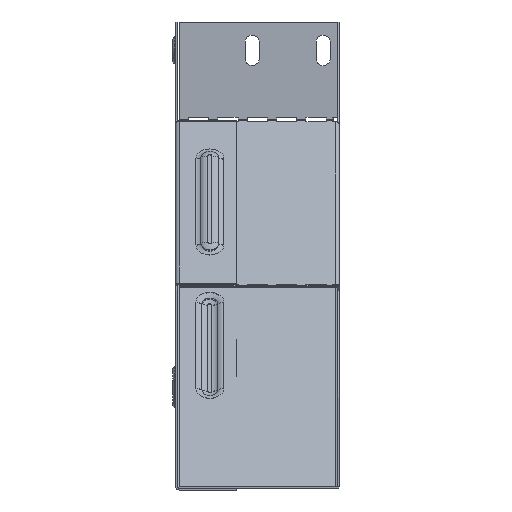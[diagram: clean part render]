
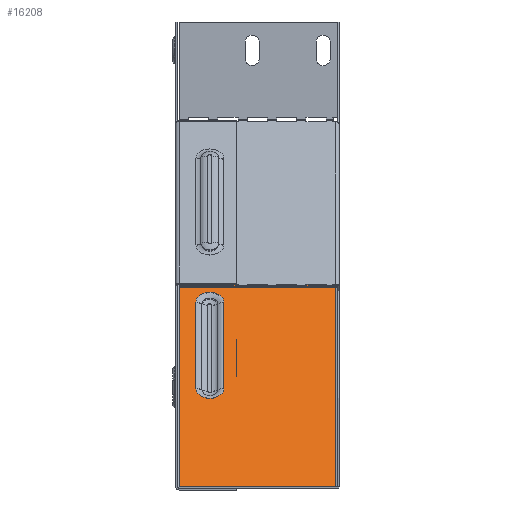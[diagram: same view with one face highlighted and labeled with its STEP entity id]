
A CAD part, left-side view. The second image highlights one B-rep face of the part: STEP entity #16208.
In plain terms, the highlighted planar face has unit normal (-0.707, 0, 0.707).
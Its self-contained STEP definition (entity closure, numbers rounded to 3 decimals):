
#53 = VECTOR ( 'NONE', #7626, 1000. ) ;
#862 = LINE ( 'NONE', #9569, #17433 ) ;
#1091 = FACE_BOUND ( 'NONE', #13655, .T. ) ;
#1096 = EDGE_CURVE ( 'NONE', #1841, #18175, #12579, .T. ) ;
#1231 = CARTESIAN_POINT ( 'NONE',  ( 23.221, 63.1, -65.648 ) ) ;
#1602 = AXIS2_PLACEMENT_3D ( 'NONE', #2169, #7394, #7015 ) ;
#1755 = FACE_OUTER_BOUND ( 'NONE', #14389, .T. ) ;
#1841 = VERTEX_POINT ( 'NONE', #14516 ) ;
#2086 = LINE ( 'NONE', #16675, #16411 ) ;
#2169 = CARTESIAN_POINT ( 'NONE',  ( 65.648, 63.1, -23.221 ) ) ;
#2198 = EDGE_CURVE ( 'NONE', #6113, #4396, #862, .T. ) ;
#2243 = CARTESIAN_POINT ( 'NONE',  ( 23.221, 56.183, -65.648 ) ) ;
#2373 = CARTESIAN_POINT ( 'NONE',  ( 114.123, 0., 25.255 ) ) ;
#2712 = ORIENTED_EDGE ( 'NONE', *, *, #15479, .F. ) ;
#2960 = CARTESIAN_POINT ( 'NONE',  ( 44.434, 56.183, -44.434 ) ) ;
#3120 = VECTOR ( 'NONE', #18192, 1000. ) ;
#3166 = ORIENTED_EDGE ( 'NONE', *, *, #9287, .F. ) ;
#3189 = DIRECTION ( 'NONE',  ( 0.707, 0., 0.707 ) ) ;
#3214 = VECTOR ( 'NONE', #3966, 1000. ) ;
#3860 = ORIENTED_EDGE ( 'NONE', *, *, #8085, .T. ) ;
#3966 = DIRECTION ( 'NONE',  ( 0., 1., 0. ) ) ;
#4124 = AXIS2_PLACEMENT_3D ( 'NONE', #1231, #15413, #4303 ) ;
#4257 = DIRECTION ( 'NONE',  ( 0.707, 0., 0.707 ) ) ;
#4303 = DIRECTION ( 'NONE',  ( 0., 1., 0. ) ) ;
#4396 = VERTEX_POINT ( 'NONE', #5369 ) ;
#4577 = EDGE_CURVE ( 'NONE', #7538, #5729, #10836, .T. ) ;
#5369 = CARTESIAN_POINT ( 'NONE',  ( 114.123, 78.2, 25.255 ) ) ;
#5729 = VERTEX_POINT ( 'NONE', #18086 ) ;
#5850 = CARTESIAN_POINT ( 'NONE',  ( 114.434, 1., 25.566 ) ) ;
#6113 = VERTEX_POINT ( 'NONE', #18067 ) ;
#6471 = CARTESIAN_POINT ( 'NONE',  ( 114.123, 1., 25.255 ) ) ;
#6904 = DIRECTION ( 'NONE',  ( 0.707, 0., 0.707 ) ) ;
#7015 = DIRECTION ( 'NONE',  ( 0., 1., 0. ) ) ;
#7135 = LINE ( 'NONE', #2960, #11754 ) ;
#7394 = DIRECTION ( 'NONE',  ( -0.707, 0., 0.707 ) ) ;
#7461 = PLANE ( 'NONE',  #14780 ) ;
#7538 = VERTEX_POINT ( 'NONE', #6471 ) ;
#7626 = DIRECTION ( 'NONE',  ( -0.707, 0., -0.707 ) ) ;
#8085 = EDGE_CURVE ( 'NONE', #7538, #4396, #10042, .T. ) ;
#8812 = ORIENTED_EDGE ( 'NONE', *, *, #13217, .F. ) ;
#9287 = EDGE_CURVE ( 'NONE', #18175, #13397, #2086, .T. ) ;
#9569 = CARTESIAN_POINT ( 'NONE',  ( 114.434, 78.2, 25.566 ) ) ;
#10000 = EDGE_CURVE ( 'NONE', #15361, #1841, #7135, .T. ) ;
#10013 = ORIENTED_EDGE ( 'NONE', *, *, #2198, .F. ) ;
#10042 = LINE ( 'NONE', #2373, #3214 ) ;
#10836 = LINE ( 'NONE', #5850, #53 ) ;
#11634 = CARTESIAN_POINT ( 'NONE',  ( 23.221, 70.017, -65.648 ) ) ;
#11754 = VECTOR ( 'NONE', #4257, 1000. ) ;
#11931 = ORIENTED_EDGE ( 'NONE', *, *, #1096, .F. ) ;
#12579 = CIRCLE ( 'NONE', #1602, 6.917 ) ;
#13030 = CARTESIAN_POINT ( 'NONE',  ( 65.648, 70.017, -23.221 ) ) ;
#13217 = EDGE_CURVE ( 'NONE', #13397, #15361, #14819, .T. ) ;
#13397 = VERTEX_POINT ( 'NONE', #11634 ) ;
#13655 = EDGE_LOOP ( 'NONE', ( #8812, #3166, #11931, #14031 ) ) ;
#14031 = ORIENTED_EDGE ( 'NONE', *, *, #10000, .F. ) ;
#14389 = EDGE_LOOP ( 'NONE', ( #16371, #3860, #10013, #2712 ) ) ;
#14516 = CARTESIAN_POINT ( 'NONE',  ( 65.648, 56.183, -23.221 ) ) ;
#14780 = AXIS2_PLACEMENT_3D ( 'NONE', #17300, #17251, #3189 ) ;
#14819 = CIRCLE ( 'NONE', #4124, 6.917 ) ;
#15361 = VERTEX_POINT ( 'NONE', #2243 ) ;
#15413 = DIRECTION ( 'NONE',  ( -0.707, 0., 0.707 ) ) ;
#15479 = EDGE_CURVE ( 'NONE', #5729, #6113, #17464, .T. ) ;
#16208 = ADVANCED_FACE ( 'NONE', ( #1091, #1755 ), #7461, .T. ) ;
#16371 = ORIENTED_EDGE ( 'NONE', *, *, #4577, .F. ) ;
#16411 = VECTOR ( 'NONE', #16616, 1000. ) ;
#16616 = DIRECTION ( 'NONE',  ( -0.707, 0., -0.707 ) ) ;
#16675 = CARTESIAN_POINT ( 'NONE',  ( 44.434, 70.017, -44.434 ) ) ;
#17251 = DIRECTION ( 'NONE',  ( -0.707, 0., 0.707 ) ) ;
#17300 = CARTESIAN_POINT ( 'NONE',  ( 44.434, 0., -44.434 ) ) ;
#17433 = VECTOR ( 'NONE', #6904, 1000. ) ;
#17464 = LINE ( 'NONE', #18257, #3120 ) ;
#18067 = CARTESIAN_POINT ( 'NONE',  ( -25.255, 78.2, -114.123 ) ) ;
#18086 = CARTESIAN_POINT ( 'NONE',  ( -25.255, 1., -114.123 ) ) ;
#18175 = VERTEX_POINT ( 'NONE', #13030 ) ;
#18192 = DIRECTION ( 'NONE',  ( 0., 1., 0. ) ) ;
#18257 = CARTESIAN_POINT ( 'NONE',  ( -25.255, 0., -114.123 ) ) ;
